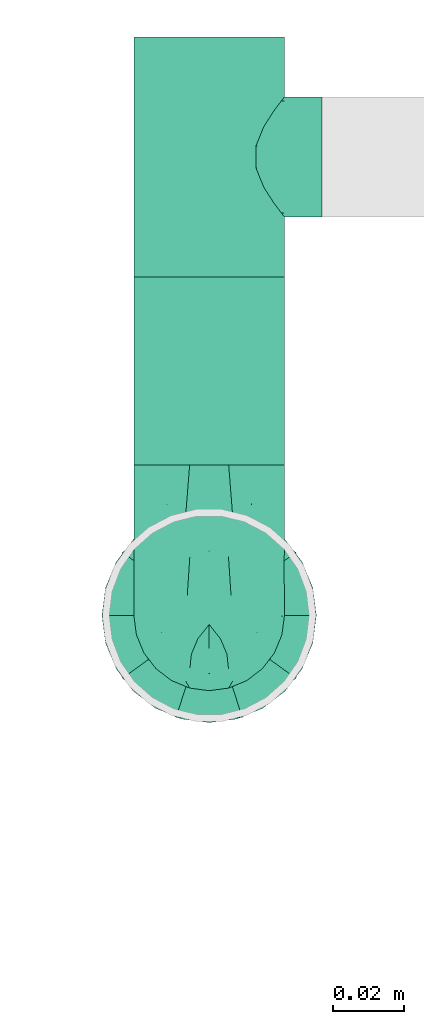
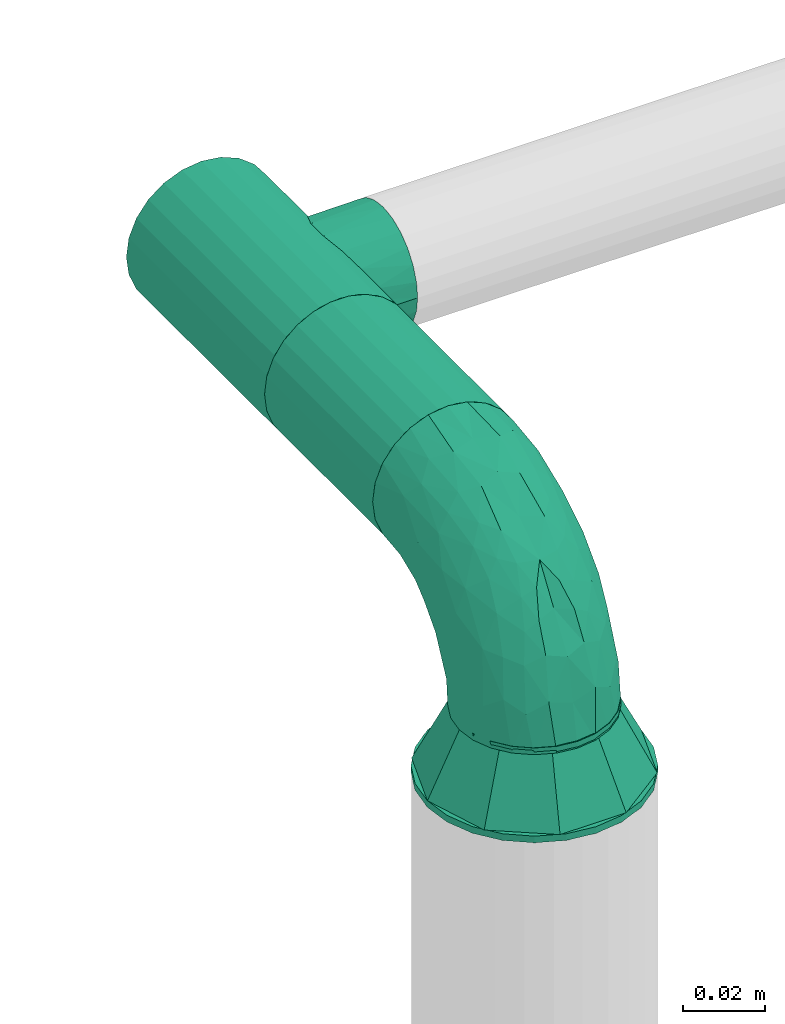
# One storey, part 50 of 63: 3 flow fittings, 1 flow segment.
"""IFC2X3 building model written with IfcOpenShell, lengths in millimetres."""

from ifc_helpers import new_model, entity, si_unit, converted_unit, derived_unit, direction, frame, origin_with_axes, origin_2d_with_axis, place, context, subcontext, project, spatial, hollow_circle, extrude, open_shell, surface_model, source, transform, mapped, type_object, element, save


model = new_model("IFC2X3")

# Units and contexts
model_context = context("Model", 3, precision=0.01, world=frame((0.0, 4.29681676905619e-09, 0.0)), true_north=direction((4.01073788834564e-13, 1.0)))
plan_context = context("Plan", 3, precision=0.01, world=frame((0.0, 4.29681676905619e-09, 0.0)), true_north=direction((4.01073788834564e-13, 1.0)))
body_context = subcontext(model_context, "Body", "Model", "MODEL_VIEW")
ifc_project = project(units=[converted_unit("PLANEANGLEUNIT", "DEGREE", entity("IfcPositiveLengthMeasure", 0.0174532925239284), si_unit("PLANEANGLEUNIT", "RADIAN"), dimensions=[0, 0, 0, 0, 0, 0, 0]), si_unit("AREAUNIT", "SQUARE_METRE"), si_unit("LENGTHUNIT", "METRE", prefix="MILLI"), si_unit("MASSUNIT", "GRAM", prefix="KILO"), si_unit("POWERUNIT", "WATT"), si_unit("PRESSUREUNIT", "PASCAL", prefix="KILO"), si_unit("FORCEUNIT", "NEWTON", prefix="KILO"), si_unit("ELECTRICVOLTAGEUNIT", "VOLT"), si_unit("ELECTRICCURRENTUNIT", "AMPERE"), si_unit("THERMODYNAMICTEMPERATUREUNIT", "DEGREE_CELSIUS"), si_unit("TIMEUNIT", "SECOND"), si_unit("VOLUMEUNIT", "CUBIC_METRE"), derived_unit("LINEARVELOCITYUNIT", [(si_unit("LENGTHUNIT", "METRE"), 1), (si_unit("TIMEUNIT", "SECOND"), -1)]), derived_unit("VOLUMETRICFLOWRATEUNIT", [(si_unit("VOLUMEUNIT", "CUBIC_METRE"), 1), (si_unit("TIMEUNIT", "SECOND"), -1)]), derived_unit("THERMALTRANSMITTANCEUNIT", [(si_unit("POWERUNIT", "WATT"), 1), (si_unit("THERMODYNAMICTEMPERATUREUNIT", "KELVIN"), -1), (si_unit("AREAUNIT", "SQUARE_METRE"), -1)]), derived_unit("SOUNDPRESSUREUNIT", [(si_unit("PRESSUREUNIT", "PASCAL"), 1)])], contexts=[model_context, plan_context])

# Site, building, storey
site_placement = place(None, frame((0.0, -4.29681676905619e-09, 0.0), z_axis=(0.0, 0.0, 1.0), x_axis=(1.0, 0.0, 0.0)))
site = spatial("IfcSite", under=ifc_project, at=site_placement, CompositionType="ELEMENT")
building_placement = place(site_placement, frame((0.0, 4.29681676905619e-09, 0.0), z_axis=(0.0, 0.0, 1.0), x_axis=(1.0, 0.0, 0.0)))
building = spatial("IfcBuilding", under=site, at=building_placement, Name="mc-building", CompositionType="ELEMENT")
storey_placement = place(building_placement, frame((0.0, 0.0, 207370.0), z_axis=(0.0, 0.0, 1.0), x_axis=(1.0, 0.0, 0.0)))
storey = spatial("IfcBuildingStorey", under=building, at=storey_placement, Name="Nivå E", CompositionType="ELEMENT", Elevation=207370.0)

# Flow fittings
pipe_fitting_type_1 = type_object("IfcPipeFittingType", Name="magi_pipe_fe_elbow_short_001", PredefinedType="BEND")
shared_shape_1 = source(origin_with_axes(), body_context, "Body", "SurfaceModel", [
    surface_model("IfcShellBasedSurfaceModel", [(-42.4, 10.6, -18.35974), (-42.4, 5.48696, -20.47763), (-42.4, 0.0, -21.2), (-42.4, 14.99066, -14.99066), (-42.4, 20.47763, -5.48696), (-42.4, 18.35974, -10.6), (-42.4, -14.99066, 14.99066), (-42.4, -21.2, 0.0), (-42.4, -10.6, -18.35974), (-42.4, -14.99066, -14.99066), (-42.4, -5.48696, -20.47763), (-42.4, -18.35974, -10.6), (-42.4, -20.47763, -5.48696), (-42.4, 10.6, 18.35974), (-42.4, 20.47763, 5.48696), (-42.4, 18.35974, 10.6), (-42.4, 14.99066, 14.99066), (-42.4, 5.48696, 20.47763), (-42.4, 0.0, 21.2), (-42.4, -20.47763, 5.48696), (-42.4, -18.35974, 10.6), (-42.4, -10.6, 18.35974), (-42.4, -5.48696, 20.47763), (-42.4, 21.2, 0.0), (0.0, 42.4, -21.2), (-5.48696, 42.4, -20.47763), (-10.6, 42.4, -18.35974), (-14.99066, 42.4, -14.99066), (-18.35974, 42.4, -10.6), (-20.47763, 42.4, -5.48696), (21.2, 42.4, 0.0), (5.48696, 42.4, -20.47763), (14.99066, 42.4, -14.99066), (10.6, 42.4, -18.35974), (18.35974, 42.4, -10.6), (20.47763, 42.4, -5.48696), (14.99066, 42.4, 14.99066), (-20.47763, 42.4, 5.48696), (-10.6, 42.4, 18.35974), (-14.99066, 42.4, 14.99066), (-18.35974, 42.4, 10.6), (-5.48696, 42.4, 20.47763), (0.0, 42.4, 21.2), (18.35974, 42.4, 10.6), (20.47763, 42.4, 5.48696), (5.48696, 42.4, 20.47763), (10.6, 42.4, 18.35974), (-21.2, 42.4, 0.0), (-31.10239, -16.47009, 11.90111), (-27.83957, -12.231, 15.79732), (-30.23067, -18.77937, 0.0), (-18.74048, -13.50096, 10.69998), (-28.17586, -18.50359, 6.61185), (18.50359, 28.17586, 6.61185), (14.95929, 16.60735, 5.43468), (16.35874, 18.06133, 0.0), (-20.72313, 33.83635, 9.21426), (-17.70981, 33.00599, 13.92769), (-31.16033, -8.01664, 19.07348), (-32.38682, -2.80842, 20.83743), (-29.68688, 3.24967, 21.16387), (-7.74467, -9.46536, 0.0), (-16.60735, -14.95929, 5.43468), (-18.06133, -16.35874, 0.0), (-16.37932, -5.14532, 17.61254), (-21.10659, -0.19025, 20.54817), (-1.82445, -3.58377, 9.55223), (-0.35533, 0.43745, 12.66367), (-7.20655, -5.07682, 13.06146), (-33.14056, 17.6728, 13.91288), (-7.36799, 20.84806, 21.16196), (-15.70315, 15.70315, 20.68489), (-12.62356, 9.26422, 21.0908), (-36.67879, 12.83836, 17.27427), (-7.91358, 36.5686, 19.85759), (-2.90555, 31.71221, 21.14793), (-33.84689, 20.71971, 9.21285), (-33.51649, 22.58113, 4.66115), (-26.3226, 26.3226, 7.92474), (-32.67995, 8.31454, 20.02643), (-5.53379, 14.19921, 20.81623), (-10.53385, 3.88918, 19.79653), (-2.16577, 11.45378, 19.48254), (-3.78693, 3.78693, 17.3328), (12.231, 27.83957, 15.79732), (13.50096, 18.74047, 10.69998), (16.47009, 31.10239, 11.90111), (-22.53806, 14.38475, 19.60876), (-23.29615, 9.08095, 20.82061), (2.80842, 32.38682, 20.83743), (8.01664, 31.16033, 19.07348), (5.14532, 16.37932, 17.61254), (18.77937, 30.23067, 0.0), (-20.80278, 5.19491, 21.19095), (-19.62579, 22.38752, 17.42006), (-29.19336, 14.39093, 17.85259), (-22.31569, 34.20044, 4.54807), (-26.56962, 27.80621, 3.73106), (9.67657, 17.17133, 14.49993), (-24.04026, 31.8, 0.0), (-9.16861, 28.72652, 20.19004), (-12.09761, 21.9456, 20.37969), (-15.36991, 27.40112, 17.818), (-16.88976, 20.52477, 19.2896), (-12.95169, 35.54896, 17.36222), (-17.17133, -9.67657, 14.49993), (-21.98655, 28.10245, 11.99898), (-22.34699, 23.67592, 15.01692), (-27.22822, 22.77969, 11.82161), (0.19025, 21.10658, 20.54817), (4.8276, 7.36347, 13.42842), (-10.06209, -9.46364, 9.95114), (1.25876, -2.7536, 5.73797), (6.43781, 3.77591, 7.40371), (6.57528, 2.20066, 3.17705), (10.91934, 8.84313, 5.00748), (10.64415, 10.99764, 8.89767), (-31.8, 24.04026, 0.0), (-5.71381, -8.43063, 6.15529), (2.57199, -2.57199, 0.0), (9.46536, 7.74467, 0.0), (-17.17133, -9.67657, -14.49993), (-27.83957, -12.231, -15.79732), (-16.37932, -5.14532, -17.61254), (-18.74048, -13.50096, -10.69998), (-33.00599, 17.70981, -13.92769), (-35.54896, 12.95169, -17.36222), (-34.20044, 22.31569, -4.54807), (-28.17586, -18.50359, -6.61185), (-26.3226, 26.3226, -7.92474), (-33.83635, 20.72313, -9.21426), (-16.60735, -14.95929, -5.43468), (-20.52477, 16.88976, -19.2896), (-21.9456, 12.0976, -20.37969), (-27.40112, 15.36991, -17.818), (-12.83836, 36.67879, -17.27427), (-17.6728, 33.14056, -13.91288), (8.01664, 31.16033, -19.07348), (5.14532, 16.37932, -17.61254), (0.19025, 21.10658, -20.54817), (-36.5686, 7.91358, -19.85759), (-31.10239, -16.47009, -11.90111), (-31.16033, -8.01664, -19.07348), (-14.38475, 22.53806, -19.60876), (-8.31454, 32.67995, -20.02643), (-9.08095, 23.29615, -20.82061), (-32.38682, -2.80842, -20.83743), (-20.84806, 7.36799, -21.16196), (-15.70315, 15.70314, -20.68489), (-9.26422, 12.62356, -21.0908), (-31.71221, 2.90555, -21.14793), (-22.58113, 33.51649, -4.66115), (-20.71971, 33.84689, -9.21285), (-28.72652, 9.16861, -20.19004), (-27.80621, 26.56962, -3.73106), (-5.19491, 20.80278, -21.19095), (-22.38752, 19.62579, -17.42006), (-14.39093, 29.19336, -17.85259), (2.80842, 32.38682, -20.83743), (-3.24967, 29.68688, -21.16387), (16.47009, 31.10239, -11.90111), (12.231, 27.83957, -15.79732), (6.57528, 2.20067, -3.17705), (10.91934, 8.84313, -5.00749), (-14.19921, 5.53379, -20.81623), (-3.88918, 10.53385, -19.79653), (-11.45378, 2.16577, -19.48254), (1.25876, -2.7536, -5.73797), (-5.71381, -8.43063, -6.15529), (-1.82445, -3.58377, -9.55223), (13.50096, 18.74048, -10.69998), (18.50359, 28.17586, -6.61185), (14.95929, 16.60735, -5.43468), (-28.10245, 21.98655, -11.99898), (9.67657, 17.17133, -14.49993), (10.64415, 10.99764, -8.89767), (4.8276, 7.36347, -13.42842), (-23.67592, 22.34699, -15.01692), (-22.77969, 27.22822, -11.82161), (-21.10658, -0.19025, -20.54817), (-3.78693, 3.78693, -17.3328), (-7.20655, -5.07682, -13.06146), (-10.06209, -9.46364, -9.95113), (-0.35533, 0.43745, -12.66367), (6.43781, 3.77591, -7.40371)], [open_shell([[[0, 1, 2]], [[3, 0, 2]], [[4, 5, 3]], [[2, 4, 3]], [[6, 2, 7]], [[8, 9, 10]], [[11, 10, 9]], [[12, 7, 11]], [[2, 10, 11]], [[11, 7, 2]], [[6, 4, 2]], [[13, 14, 4]], [[15, 14, 16]], [[4, 6, 13]], [[16, 14, 13]], [[17, 13, 18]], [[19, 20, 7]], [[7, 20, 6]], [[21, 22, 6]], [[18, 6, 22]], [[6, 18, 13]], [[23, 4, 14]], [[24, 25, 26]], [[24, 26, 27]], [[27, 28, 29]], [[27, 29, 24]], [[24, 29, 30]], [[31, 32, 33]], [[31, 24, 32]], [[34, 30, 35]], [[32, 24, 34]], [[24, 30, 34]], [[29, 36, 30]], [[29, 37, 38]], [[39, 37, 40]], [[36, 29, 38]], [[38, 37, 39]], [[41, 42, 38]], [[30, 43, 44]], [[36, 43, 30]], [[36, 45, 46]], [[45, 36, 42]], [[38, 42, 36]], [[37, 29, 47]], [[6, 48, 49]], [[19, 7, 50]], [[51, 48, 52]], [[53, 54, 55]], [[48, 6, 20]], [[19, 52, 20]], [[40, 56, 57]], [[49, 21, 6]], [[49, 58, 21]], [[18, 59, 60]], [[61, 62, 63]], [[58, 64, 65]], [[66, 67, 68]], [[15, 16, 69]], [[70, 71, 72]], [[13, 73, 16]], [[22, 59, 18]], [[41, 74, 75]], [[18, 60, 17]], [[15, 69, 76]], [[16, 73, 69]], [[23, 14, 77]], [[14, 15, 76]], [[77, 76, 78]], [[17, 79, 13]], [[80, 81, 82]], [[68, 83, 64]], [[84, 36, 46]], [[85, 86, 84]], [[87, 79, 88]], [[21, 58, 22]], [[42, 89, 45]], [[53, 44, 43]], [[42, 41, 75]], [[84, 90, 91]], [[43, 86, 53]], [[92, 44, 53]], [[86, 43, 36]], [[90, 46, 45]], [[53, 55, 92]], [[88, 93, 72]], [[54, 53, 85]], [[87, 94, 95]], [[78, 96, 97]], [[98, 84, 91]], [[99, 96, 47]], [[79, 17, 60]], [[96, 78, 56]], [[62, 52, 63]], [[57, 39, 40]], [[100, 70, 75]], [[101, 102, 103]], [[19, 50, 52]], [[104, 38, 39]], [[74, 41, 38]], [[57, 102, 104]], [[105, 64, 49]], [[90, 84, 46]], [[40, 37, 56]], [[56, 106, 57]], [[102, 57, 107]], [[95, 107, 69]], [[76, 108, 78]], [[100, 101, 70]], [[89, 75, 109]], [[64, 58, 49]], [[63, 52, 50]], [[59, 58, 65]], [[105, 49, 51]], [[64, 83, 81]], [[89, 90, 45]], [[30, 44, 92]], [[109, 82, 91]], [[109, 91, 90]], [[91, 83, 110]], [[111, 68, 105]], [[66, 68, 111]], [[62, 51, 52]], [[66, 112, 113]], [[114, 115, 113]], [[98, 85, 84]], [[52, 48, 20]], [[49, 48, 51]], [[84, 86, 36]], [[53, 86, 85]], [[88, 79, 60]], [[73, 79, 95]], [[96, 56, 37]], [[78, 108, 106]], [[87, 103, 94]], [[100, 74, 104]], [[108, 69, 107]], [[78, 97, 77]], [[88, 72, 71]], [[109, 75, 70]], [[81, 72, 65]], [[70, 72, 80]], [[75, 89, 42]], [[90, 89, 109]], [[58, 59, 22]], [[60, 59, 65]], [[67, 83, 68]], [[110, 113, 116]], [[88, 60, 93]], [[87, 88, 71]], [[103, 87, 71]], [[79, 87, 95]], [[101, 103, 71]], [[94, 103, 102]], [[47, 96, 37]], [[96, 99, 97]], [[99, 117, 97]], [[97, 117, 77]], [[23, 77, 117]], [[14, 76, 77]], [[60, 65, 93]], [[65, 72, 93]], [[70, 101, 71]], [[102, 101, 100]], [[69, 108, 76]], [[106, 108, 107]], [[57, 106, 107]], [[78, 106, 56]], [[57, 104, 39]], [[100, 104, 102]], [[102, 107, 94]], [[95, 94, 107]], [[64, 81, 65]], [[82, 81, 83]], [[91, 82, 83]], [[80, 82, 109]], [[70, 80, 109]], [[81, 80, 72]], [[79, 73, 13]], [[69, 73, 95]], [[104, 74, 38]], [[75, 74, 100]], [[62, 61, 118]], [[111, 62, 118]], [[113, 115, 116]], [[119, 118, 61]], [[111, 105, 51]], [[113, 112, 114]], [[120, 55, 54]], [[68, 64, 105]], [[91, 110, 98]], [[116, 98, 110]], [[62, 111, 51]], [[66, 111, 118]], [[112, 66, 118]], [[67, 113, 110]], [[118, 119, 112]], [[114, 112, 119]], [[119, 120, 114]], [[115, 120, 54]], [[120, 115, 114]], [[116, 54, 85]], [[54, 116, 115]], [[116, 85, 98]], [[113, 67, 66]], [[83, 67, 110]], [[121, 122, 123]], [[122, 121, 124]], [[5, 125, 3]], [[3, 126, 0]], [[117, 127, 23]], [[50, 12, 128]], [[127, 129, 130]], [[128, 131, 63]], [[132, 133, 134]], [[27, 135, 136]], [[137, 138, 139]], [[0, 140, 1]], [[128, 11, 141]], [[142, 8, 10]], [[128, 63, 50]], [[5, 4, 130]], [[11, 9, 141]], [[143, 144, 145]], [[146, 10, 2]], [[147, 148, 149]], [[11, 128, 12]], [[124, 141, 122]], [[150, 2, 1]], [[151, 152, 129]], [[125, 134, 126]], [[153, 147, 150]], [[127, 154, 129]], [[145, 155, 149]], [[47, 29, 151]], [[143, 156, 157]], [[152, 29, 28]], [[24, 158, 159]], [[122, 9, 8]], [[27, 26, 135]], [[144, 26, 25]], [[32, 160, 161]], [[24, 31, 158]], [[120, 162, 163]], [[130, 125, 5]], [[27, 136, 28]], [[1, 140, 150]], [[33, 161, 137]], [[142, 122, 8]], [[24, 159, 25]], [[164, 165, 166]], [[167, 168, 169]], [[34, 160, 32]], [[161, 33, 32]], [[170, 160, 171]], [[131, 128, 124]], [[30, 92, 35]], [[35, 92, 171]], [[172, 171, 55]], [[35, 171, 34]], [[144, 25, 159]], [[130, 173, 125]], [[174, 175, 176]], [[136, 152, 28]], [[33, 137, 31]], [[122, 142, 123]], [[134, 125, 177]], [[157, 177, 136]], [[152, 178, 129]], [[153, 133, 147]], [[146, 150, 179]], [[146, 142, 10]], [[7, 12, 50]], [[179, 166, 123]], [[179, 123, 142]], [[123, 180, 181]], [[138, 137, 161]], [[55, 171, 92]], [[158, 137, 139]], [[174, 161, 170]], [[138, 180, 165]], [[180, 138, 176]], [[124, 121, 182]], [[176, 183, 180]], [[61, 131, 168]], [[169, 168, 182]], [[172, 170, 171]], [[122, 141, 9]], [[128, 141, 124]], [[171, 160, 34]], [[161, 160, 170]], [[145, 144, 159]], [[135, 144, 157]], [[127, 130, 4]], [[129, 178, 173]], [[143, 132, 156]], [[153, 140, 126]], [[178, 136, 177]], [[129, 154, 151]], [[145, 149, 148]], [[179, 150, 147]], [[165, 149, 139]], [[147, 149, 164]], [[150, 146, 2]], [[142, 146, 179]], [[137, 158, 31]], [[159, 158, 139]], [[174, 138, 161]], [[184, 169, 183]], [[145, 159, 155]], [[143, 145, 148]], [[132, 143, 148]], [[144, 143, 157]], [[133, 132, 148]], [[156, 132, 134]], [[23, 127, 4]], [[127, 117, 154]], [[117, 99, 154]], [[154, 99, 151]], [[47, 151, 99]], [[29, 152, 151]], [[159, 139, 155]], [[139, 149, 155]], [[147, 133, 148]], [[134, 133, 153]], [[136, 178, 152]], [[173, 178, 177]], [[125, 173, 177]], [[129, 173, 130]], [[125, 126, 3]], [[153, 126, 134]], [[134, 177, 156]], [[157, 156, 177]], [[138, 165, 139]], [[166, 165, 180]], [[123, 166, 180]], [[164, 166, 179]], [[147, 164, 179]], [[165, 164, 149]], [[144, 135, 26]], [[136, 135, 157]], [[126, 140, 0]], [[150, 140, 153]], [[182, 131, 124]], [[168, 119, 61]], [[119, 167, 162]], [[63, 131, 61]], [[172, 163, 175]], [[172, 55, 120]], [[123, 181, 121]], [[182, 121, 181]], [[175, 174, 170]], [[176, 138, 174]], [[169, 182, 181]], [[131, 182, 168]], [[183, 169, 181]], [[167, 169, 184]], [[162, 167, 184]], [[119, 168, 167]], [[163, 162, 184]], [[120, 119, 162]], [[175, 163, 184]], [[120, 163, 172]], [[176, 175, 184]], [[172, 175, 170]], [[180, 183, 181]], [[184, 183, 176]]])]),
])
flow_fitting_1_placement = place(storey_placement, frame((719641.29045, 446029.40604, 2700.0), z_axis=(1.0, 0.0, 0.0), x_axis=(0.0, -1.0, 0.0)))
element("IfcFlowFitting", 1, at=flow_fitting_1_placement, inside=storey, type_object=pipe_fitting_type_1, Name="magi_pipe_fe_elbow_short_001", context=body_context, shape_type="MappedRepresentation", body=[
    mapped(shared_shape_1, transform((0.0, 0.0, 0.0), scale=1.0)),
])
pipe_fitting_type_2 = type_object("IfcPipeFittingType", Name="magi_pipe_fe_reducer_centric_short_NOR", PredefinedType="TRANSITION")
shared_shape_2 = source(origin_with_axes(), body_context, "Body", "SurfaceModel", [
    surface_model("IfcShellBasedSurfaceModel", [(-2.0, -10.6, -18.35974), (-2.0, 0.0, -21.2), (-2.0, -5.48696, -20.47763), (-2.0, 5.48696, -20.47763), (-2.0, 10.6, -18.35974), (-2.0, 0.0, 21.2), (-2.0, 5.48696, 20.47763), (-2.0, 10.6, 18.35974), (-2.0, 14.99066, 14.99066), (-2.0, 18.35974, 10.6), (-2.0, 20.47763, 5.48696), (-2.0, -21.2, 0.0), (-2.0, -14.99066, -14.99066), (-2.0, -5.48696, 20.47763), (-2.0, -14.99066, 14.99066), (-2.0, -10.6, 18.35974), (-2.0, -18.35974, 10.6), (-2.0, -20.47763, 5.48696), (-2.0, 20.47763, -5.48696), (-2.0, 14.99066, -14.99066), (-2.0, 18.35974, -10.6), (-2.0, -18.35974, -10.6), (-2.0, -20.47763, -5.48696), (-2.0, 21.2, 0.0), (0.0, 10.6, -18.35974), (0.0, 0.0, -21.2), (0.0, 5.48696, -20.47763), (0.0, 20.47763, -5.48696), (0.0, 14.99066, -14.99066), (0.0, -21.2, 0.0), (0.0, -14.99066, -14.99066), (0.0, 18.35974, -10.6), (0.0, -10.6, -18.35974), (0.0, -5.48696, -20.47763), (0.0, -18.35974, -10.6), (0.0, -20.47763, -5.48696), (0.0, -18.35974, 10.6), (0.0, 21.2, 0.0), (0.0, 20.47763, 5.48696), (0.0, 18.35974, 10.6), (0.0, 14.99066, 14.99066), (0.0, 0.0, 21.2), (0.0, 10.6, 18.35974), (0.0, 5.48696, 20.47763), (0.0, -14.99066, 14.99066), (0.0, -20.47763, 5.48696), (0.0, -5.48696, 20.47763), (0.0, -10.6, 18.35974), (0.0, -6.55116, 20.1624), (0.0, -17.15116, -12.46105), (0.0, -17.15116, 12.46105), (0.0, 17.15116, -12.46105), (0.0, -6.55116, -20.1624), (0.0, 6.55116, -20.1624), (0.0, 6.55116, 20.1624), (0.0, 17.15116, 12.46105), (20.0, 7.81634, -29.17096), (20.0, 15.1, -26.15397), (20.0, 21.35462, -21.35462), (20.0, 30.2, 0.0), (20.0, 26.15397, -15.1), (20.0, 29.17096, -7.81634), (20.0, -15.1, -26.15397), (20.0, -29.17096, 7.81634), (20.0, 0.0, -30.2), (20.0, -7.81634, -29.17096), (20.0, -21.35462, -21.35462), (20.0, -29.17096, -7.81634), (20.0, -26.15397, -15.1), (20.0, 29.17096, 7.81634), (20.0, 26.15397, 15.1), (20.0, 21.35462, 21.35462), (20.0, 0.0, 30.2), (20.0, 15.1, 26.15397), (20.0, 7.81634, 29.17096), (20.0, -21.35462, 21.35462), (20.0, -26.15397, 15.1), (20.0, -30.2, 0.0), (20.0, -7.81634, 29.17096), (20.0, -15.1, 26.15397), (18.0, 21.35462, 21.35462), (18.0, 0.0, 30.2), (18.0, 7.81634, 29.17096), (18.0, 15.1, 26.15397), (18.0, 26.15397, 15.1), (18.0, 29.17096, 7.81634), (18.0, -29.17096, 7.81634), (18.0, 30.2, 0.0), (18.0, -7.81634, 29.17096), (18.0, -21.35462, 21.35462), (18.0, -15.1, 26.15397), (18.0, -26.15397, 15.1), (18.0, -30.2, 0.0), (18.0, 29.17096, -7.81634), (18.0, 26.15397, -15.1), (18.0, 21.35462, -21.35462), (18.0, 15.1, -26.15397), (18.0, 7.81634, -29.17096), (18.0, -15.1, -26.15397), (18.0, -29.17096, -7.81634), (18.0, -21.35462, -21.35462), (18.0, -26.15397, -15.1), (18.0, 0.0, -30.2), (18.0, -7.81634, -29.17096), (18.0, 9.33231, 28.72191), (18.0, -9.33231, 28.72191), (18.0, 24.43231, -17.75111), (18.0, 24.43231, 17.75111), (18.0, -24.43231, 17.75111), (18.0, -24.43231, -17.75111), (18.0, -9.33231, -28.72191), (18.0, 9.33231, -28.72191), (18.0, -27.31616, -8.87556), (0.0, -19.17558, -6.23052), (0.0, 0.0, -20.1624), (18.0, 0.0, -28.72191), (0.0, -11.85116, -16.31172), (18.0, -16.88231, -23.23651), (18.0, 28.43849, -5.42138), (18.0, 26.67698, -10.84276), (0.0, 19.17558, -6.23052), (18.0, 16.88231, -23.23651), (0.0, 11.85116, -16.31172), (18.0, 27.31616, 8.87556), (0.0, 19.17558, 6.23052), (0.0, 0.0, 20.1624), (18.0, 0.0, 28.72191), (0.0, 11.85116, 16.31172), (18.0, 16.88231, 23.23651), (18.0, -28.43849, 5.42138), (18.0, -26.67698, 10.84276), (0.0, -19.17558, 6.23052), (18.0, -16.88231, 23.23651), (0.0, -11.85116, 16.31172)], [open_shell([[[0, 1, 2]], [[3, 1, 4]], [[5, 6, 7]], [[5, 7, 8]], [[8, 9, 10]], [[8, 10, 5]], [[11, 5, 12]], [[13, 14, 15]], [[13, 5, 14]], [[16, 11, 17]], [[14, 5, 16]], [[5, 11, 16]], [[5, 10, 12]], [[10, 18, 4]], [[19, 18, 20]], [[12, 10, 4]], [[4, 18, 19]], [[11, 21, 22]], [[12, 21, 11]], [[0, 12, 4]], [[1, 0, 4]], [[18, 10, 23]], [[24, 25, 26]], [[27, 24, 28]], [[29, 30, 24]], [[27, 28, 31]], [[27, 29, 24]], [[25, 32, 33]], [[25, 24, 32]], [[34, 29, 35]], [[32, 24, 30]], [[34, 30, 29]], [[36, 27, 37]], [[38, 39, 40]], [[38, 40, 41]], [[42, 43, 41]], [[42, 41, 40]], [[38, 41, 44]], [[29, 36, 45]], [[27, 36, 29]], [[44, 46, 47]], [[36, 38, 44]], [[41, 46, 44]], [[36, 37, 38]], [[22, 35, 11]], [[21, 34, 22]], [[32, 12, 0]], [[21, 12, 30]], [[33, 0, 2]], [[22, 34, 35]], [[35, 29, 11]], [[33, 32, 0]], [[30, 12, 32]], [[30, 34, 21]], [[25, 33, 2]], [[2, 1, 25]], [[3, 26, 1]], [[4, 24, 3]], [[31, 19, 20]], [[4, 19, 28]], [[27, 20, 18]], [[4, 28, 24]], [[24, 26, 3]], [[37, 27, 18]], [[31, 20, 27]], [[31, 28, 19]], [[23, 37, 18]], [[1, 26, 25]], [[10, 38, 23]], [[9, 39, 10]], [[42, 8, 7]], [[9, 8, 40]], [[43, 7, 6]], [[10, 39, 38]], [[38, 37, 23]], [[43, 42, 7]], [[40, 8, 42]], [[40, 39, 9]], [[41, 43, 6]], [[6, 5, 41]], [[13, 46, 5]], [[15, 47, 13]], [[36, 14, 16]], [[15, 14, 44]], [[45, 16, 17]], [[15, 44, 47]], [[47, 46, 13]], [[29, 45, 17]], [[36, 16, 45]], [[36, 44, 14]], [[11, 29, 17]], [[5, 46, 41]], [[48, 49, 50]], [[37, 51, 49]], [[51, 52, 49]], [[52, 51, 53]], [[37, 49, 48]], [[54, 55, 37]], [[56, 57, 58]], [[56, 58, 59]], [[60, 61, 59]], [[60, 59, 58]], [[62, 56, 63]], [[64, 62, 65]], [[64, 56, 62]], [[66, 67, 68]], [[67, 66, 62]], [[62, 63, 67]], [[63, 56, 59]], [[69, 70, 71]], [[71, 72, 59]], [[73, 74, 72]], [[73, 72, 71]], [[59, 72, 75]], [[63, 75, 76]], [[77, 67, 63]], [[75, 78, 79]], [[63, 59, 75]], [[78, 75, 72]], [[69, 71, 59]], [[80, 81, 82]], [[80, 82, 83]], [[80, 84, 85]], [[81, 80, 86]], [[87, 86, 80]], [[88, 89, 90]], [[88, 81, 89]], [[89, 86, 91]], [[81, 86, 89]], [[86, 87, 92]], [[87, 80, 85]], [[87, 93, 94]], [[87, 94, 95]], [[95, 96, 97]], [[95, 97, 87]], [[97, 98, 92]], [[99, 100, 101]], [[100, 99, 98]], [[98, 102, 103]], [[99, 92, 98]], [[97, 102, 98]], [[92, 87, 97]], [[99, 67, 92]], [[101, 68, 99]], [[62, 100, 98]], [[101, 100, 66]], [[65, 98, 103]], [[99, 68, 67]], [[67, 77, 92]], [[65, 62, 98]], [[66, 100, 62]], [[66, 68, 101]], [[64, 65, 103]], [[103, 102, 64]], [[97, 56, 102]], [[96, 57, 97]], [[60, 95, 94]], [[96, 95, 58]], [[61, 94, 93]], [[96, 58, 57]], [[57, 56, 97]], [[59, 61, 93]], [[60, 94, 61]], [[60, 58, 95]], [[87, 59, 93]], [[102, 56, 64]], [[85, 69, 87]], [[84, 70, 85]], [[73, 80, 83]], [[84, 80, 71]], [[74, 83, 82]], [[85, 70, 69]], [[69, 59, 87]], [[74, 73, 83]], [[71, 80, 73]], [[71, 70, 84]], [[72, 74, 82]], [[82, 81, 72]], [[88, 78, 81]], [[90, 79, 88]], [[76, 89, 91]], [[90, 89, 75]], [[63, 91, 86]], [[90, 75, 79]], [[79, 78, 88]], [[77, 63, 86]], [[76, 91, 63]], [[76, 75, 89]], [[92, 77, 86]], [[81, 78, 72]], [[92, 104, 105]], [[104, 106, 107]], [[87, 107, 106]], [[92, 105, 108]], [[92, 109, 106]], [[106, 110, 111]], [[110, 106, 109]], [[92, 106, 104]], [[54, 37, 48]], [[29, 50, 49]], [[112, 29, 113]], [[114, 111, 115]], [[110, 116, 52]], [[29, 112, 92]], [[113, 109, 112]], [[117, 49, 116]], [[113, 49, 109]], [[115, 110, 52]], [[111, 114, 53]], [[118, 119, 120]], [[53, 121, 111]], [[121, 53, 122]], [[119, 51, 120]], [[49, 117, 109]], [[122, 106, 121]], [[51, 119, 106]], [[110, 117, 116]], [[37, 118, 120]], [[115, 52, 114]], [[118, 37, 87]], [[122, 51, 106]], [[123, 37, 124]], [[125, 105, 126]], [[104, 127, 54]], [[37, 123, 87]], [[124, 107, 123]], [[128, 55, 127]], [[124, 55, 107]], [[126, 104, 54]], [[105, 125, 48]], [[129, 130, 131]], [[48, 132, 105]], [[132, 48, 133]], [[130, 50, 131]], [[55, 128, 107]], [[133, 108, 132]], [[50, 130, 108]], [[104, 128, 127]], [[29, 129, 131]], [[126, 54, 125]], [[129, 29, 92]], [[133, 50, 108]]])]),
])
flow_fitting_2_placement = place(storey_placement, frame((719641.29045, 446029.40604, 2657.60000000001), z_axis=(0.0, -1.0, 0.0), x_axis=(0.0, 0.0, -1.0)))
element("IfcFlowFitting", 2, at=flow_fitting_2_placement, inside=storey, type_object=pipe_fitting_type_2, Name="magi_pipe_fe_reducer_centric_short_NOR", context=body_context, shape_type="MappedRepresentation", body=[
    mapped(shared_shape_2, transform((0.0, 0.0, 0.0), scale=1.0)),
])
pipe_fitting_type_3 = type_object("IfcPipeFittingType", Name="magi_pipe_fe_tee_centric_90_NOR", PredefinedType="JUNCTION")
shared_shape_3 = source(origin_with_axes(), body_context, "Body", "SurfaceModel", [
    surface_model("IfcShellBasedSurfaceModel", [(-33.8, 0.0, -21.2), (-33.8, -5.48696, -20.47763), (-33.8, 5.48696, -20.47763), (-33.8, 10.6, -18.35974), (-33.8, 14.99066, -14.99066), (-33.8, -20.47763, 5.48696), (-33.8, 18.35974, -10.6), (-33.8, 10.6, 18.35974), (-33.8, -14.99066, -14.99066), (-33.8, -18.35974, -10.6), (-33.8, -10.6, -18.35974), (-33.8, -20.47763, -5.48696), (-33.8, -21.2, 0.0), (-33.8, 18.35974, 10.6), (-33.8, 20.47763, -5.48696), (-33.8, 20.47763, 5.48696), (-33.8, 21.2, 0.0), (-33.8, 14.99066, 14.99066), (-33.8, 5.48696, 20.47763), (-33.8, 0.0, 21.2), (-33.8, -18.35974, 10.6), (-33.8, -14.99066, 14.99066), (-33.8, -10.6, 18.35974), (-33.8, -5.48696, 20.47763), (33.8, 5.48696, -20.47763), (33.8, -5.48696, -20.47763), (33.8, 0.0, -21.2), (33.8, 14.99066, -14.99066), (33.8, 10.6, -18.35974), (33.8, 18.35974, -10.6), (33.8, 20.47763, -5.48696), (33.8, -21.2, 0.0), (33.8, -10.6, -18.35974), (33.8, -18.35974, -10.6), (33.8, -14.99066, -14.99066), (33.8, -20.47763, -5.48696), (33.8, -20.47763, 5.48696), (33.8, 21.2, 0.0), (33.8, 20.47763, 5.48696), (33.8, 18.35974, 10.6), (33.8, 10.6, 18.35974), (33.8, 14.99066, 14.99066), (33.8, 0.0, 21.2), (33.8, 5.48696, 20.47763), (33.8, -14.99066, 14.99066), (33.8, -18.35974, 10.6), (33.8, -10.6, 18.35974), (33.8, -5.48696, 20.47763), (16.9, -21.2, 0.0), (15.78624, -20.32327, 6.03364), (12.81343, -18.11115, 11.01935), (8.52479, -15.37862, 14.59239), (3.07939, -13.16482, 16.61708), (-16.9, -21.2, 0.0), (-15.78686, -20.32375, 6.032), (-8.52604, -15.37932, 14.59166), (-3.0848, -13.16609, 16.61608), (-12.81602, -18.11299, 11.01634), (3.07939, -13.16482, -16.61708), (12.81343, -18.11115, -11.01935), (8.52479, -15.37862, -14.59239), (15.78624, -20.32327, -6.03364), (-3.0848, -13.16609, -16.61608), (-8.52604, -15.37932, -14.59166), (-12.81602, -18.11299, -11.01634), (-15.78686, -20.32375, -6.032), (4.37404, -31.8, -16.32415), (-16.9, -31.8, 0.0), (0.0, -31.8, -16.9), (14.63583, -31.8, -8.45), (8.45, -31.8, -14.63583), (16.32415, -31.8, -4.37404), (11.9501, -31.8, -11.9501), (-11.9501, -31.8, -11.9501), (-8.45, -31.8, -14.63583), (-4.37404, -31.8, -16.32415), (-14.63583, -31.8, -8.45), (-16.32415, -31.8, -4.37404), (16.9, -31.8, 0.0), (8.45, -31.8, 14.63583), (16.32415, -31.8, 4.37404), (14.63583, -31.8, 8.45), (-8.45, -31.8, 14.63583), (11.9501, -31.8, 11.9501), (4.37404, -31.8, 16.32415), (-16.32415, -31.8, 4.37404), (-11.9501, -31.8, 11.9501), (-14.63583, -31.8, 8.45), (0.0, -31.8, 16.9), (-4.37404, -31.8, 16.32415), (-16.34343, -20.76188, 3.016), (16.34312, -20.76163, 3.01682), (-0.00271, -13.16546, 16.61658), (16.34312, -20.76163, -3.01682), (-0.00271, -13.16546, -16.61658), (-16.34343, -20.76188, -3.016)], [open_shell([[[0, 1, 2]], [[3, 2, 4]], [[5, 2, 1]], [[4, 2, 6]], [[6, 2, 7]], [[8, 9, 10]], [[1, 10, 9]], [[9, 11, 1]], [[12, 1, 11]], [[5, 1, 12]], [[13, 14, 6]], [[13, 15, 16]], [[6, 7, 13]], [[5, 7, 2]], [[17, 13, 7]], [[18, 7, 19]], [[20, 21, 5]], [[22, 5, 21]], [[23, 19, 22]], [[7, 5, 22]], [[22, 19, 7]], [[16, 14, 13]], [[24, 25, 26]], [[27, 24, 28]], [[29, 30, 24]], [[29, 24, 27]], [[31, 24, 30]], [[32, 33, 34]], [[33, 32, 25]], [[33, 31, 35]], [[31, 33, 25]], [[25, 24, 31]], [[30, 36, 31]], [[37, 38, 39]], [[37, 39, 40]], [[37, 40, 36]], [[40, 39, 41]], [[42, 40, 43]], [[36, 44, 45]], [[44, 36, 46]], [[46, 42, 47]], [[46, 36, 40]], [[40, 42, 46]], [[37, 36, 30]], [[31, 36, 48]], [[49, 48, 36]], [[36, 45, 49]], [[45, 44, 50]], [[51, 50, 44]], [[52, 51, 44]], [[44, 46, 52]], [[45, 50, 49]], [[53, 54, 5]], [[5, 12, 53]], [[54, 20, 5]], [[55, 56, 21]], [[20, 57, 21]], [[57, 20, 54]], [[21, 57, 55]], [[56, 22, 21]], [[52, 22, 56]], [[19, 47, 42]], [[23, 46, 47]], [[18, 42, 43]], [[39, 38, 15]], [[17, 40, 41]], [[13, 41, 39]], [[43, 40, 7]], [[16, 38, 37]], [[22, 46, 23]], [[23, 47, 19]], [[18, 19, 42]], [[43, 7, 18]], [[7, 40, 17]], [[13, 17, 41]], [[15, 13, 39]], [[38, 16, 15]], [[46, 22, 52]], [[6, 30, 29]], [[14, 37, 30]], [[4, 29, 27]], [[26, 25, 1]], [[2, 28, 24]], [[0, 24, 26]], [[27, 28, 3]], [[10, 25, 32]], [[16, 37, 14]], [[14, 30, 6]], [[4, 6, 29]], [[27, 3, 4]], [[3, 28, 2]], [[0, 2, 24]], [[1, 0, 26]], [[25, 10, 1]], [[32, 58, 10]], [[34, 59, 60]], [[59, 34, 33]], [[60, 58, 34]], [[34, 58, 32]], [[35, 31, 48]], [[35, 61, 33]], [[61, 35, 48]], [[33, 61, 59]], [[62, 63, 8]], [[8, 64, 9]], [[64, 8, 63]], [[62, 8, 10]], [[65, 53, 11]], [[65, 11, 9]], [[11, 53, 12]], [[65, 9, 64]], [[58, 62, 10]], [[66, 67, 68]], [[69, 66, 70]], [[69, 71, 66]], [[69, 70, 72]], [[67, 66, 71]], [[68, 73, 74]], [[74, 75, 68]], [[76, 67, 77]], [[73, 68, 76]], [[67, 76, 68]], [[71, 78, 67]], [[79, 78, 80]], [[79, 80, 81]], [[82, 67, 79]], [[79, 81, 83]], [[82, 79, 84]], [[85, 86, 87]], [[86, 85, 82]], [[82, 88, 89]], [[85, 67, 82]], [[84, 88, 82]], [[79, 67, 78]], [[85, 90, 67]], [[57, 87, 86]], [[85, 87, 54]], [[86, 82, 55]], [[85, 54, 90]], [[90, 53, 67]], [[54, 87, 57]], [[91, 49, 80]], [[55, 89, 56]], [[55, 57, 86]], [[88, 52, 92]], [[55, 82, 89]], [[52, 88, 84]], [[79, 51, 84]], [[50, 83, 81]], [[83, 51, 79]], [[81, 80, 49]], [[83, 50, 51]], [[51, 52, 84]], [[78, 91, 80]], [[49, 50, 81]], [[91, 78, 48]], [[88, 56, 89]], [[92, 56, 88]], [[71, 93, 78]], [[59, 69, 72]], [[71, 69, 61]], [[72, 70, 60]], [[93, 48, 78]], [[61, 69, 59]], [[60, 66, 58]], [[60, 59, 72]], [[68, 62, 94]], [[60, 70, 66]], [[95, 67, 53]], [[95, 65, 77]], [[71, 61, 93]], [[75, 62, 68]], [[65, 76, 77]], [[73, 76, 64]], [[68, 58, 66]], [[75, 63, 62]], [[63, 75, 74]], [[74, 73, 63]], [[63, 73, 64]], [[64, 76, 65]], [[67, 95, 77]], [[94, 58, 68]]])]),
])
flow_fitting_3_placement = place(storey_placement, frame((719641.29045, 446158.4735, 2700.0), z_axis=(0.0, 0.0, 1.0), x_axis=(0.0, 1.0, 0.0)))
element("IfcFlowFitting", 3, at=flow_fitting_3_placement, inside=storey, type_object=pipe_fitting_type_3, Name="magi_pipe_fe_tee_centric_90_NOR", context=body_context, shape_type="MappedRepresentation", body=[
    mapped(shared_shape_3, transform((0.0, 0.0, 0.0), scale=1.0)),
])

# Flow segment
pipe_segment_type = type_object("IfcPipeSegmentType", Name="Stålrør normaltykke", PredefinedType="RIGIDSEGMENT")
shared_shape_4 = source(origin_with_axes(), body_context, "Body", "SweptSolid", [
    extrude(hollow_circle(Radius=21.2, WallThickness=2.0, at=origin_2d_with_axis()), frame((0.0, 0.0, 0.0), z_axis=(1.0, 0.0, 0.0), x_axis=(0.0, 1.0, 0.0)), (0.0, 0.0, 1.0), 52.9),
])
flow_segment_placement = place(storey_placement, frame((719641.29045, 446124.6735, 2700.0), z_axis=(0.0, 0.0, 1.0), x_axis=(0.0, -1.0, 0.0)))
element("IfcFlowSegment", 4, at=flow_segment_placement, inside=storey, type_object=pipe_segment_type, Name="Stålrør normaltykke", context=body_context, shape_type="MappedRepresentation", body=[
    mapped(shared_shape_4, transform((0.0, 0.0, 0.0), scale=1.0)),
])

save(model, "model.ifc")
